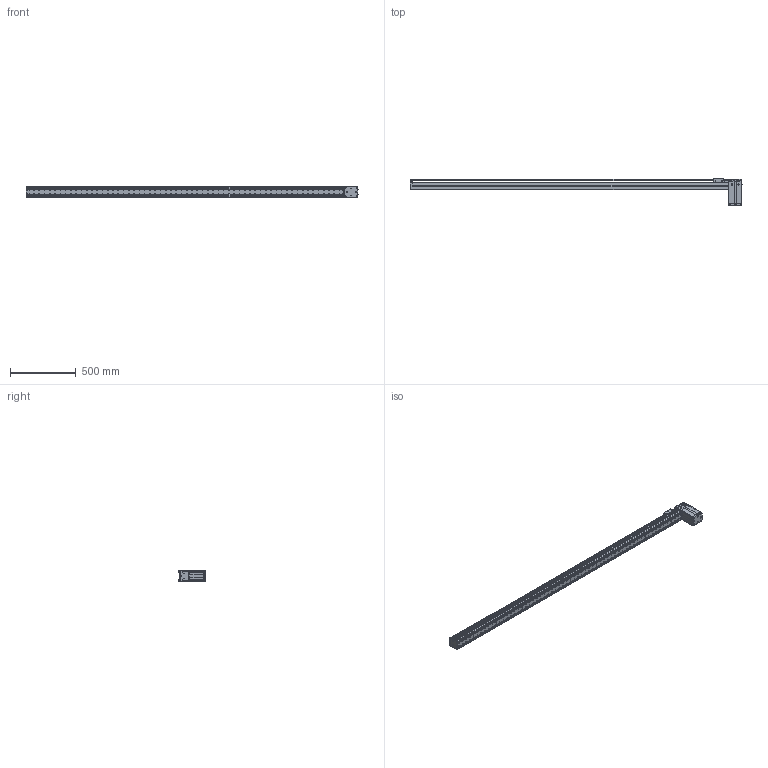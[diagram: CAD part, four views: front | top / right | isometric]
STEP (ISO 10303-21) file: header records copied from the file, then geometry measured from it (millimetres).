
FILE_DESCRIPTION((''),'2;1');
FILE_NAME('BE10_-BU-S_N-N5_IGS_PRT','2017-06-18T',(' '),(''),'PRO/ENGINEER BY PARAMETRIC TECHNOLOGY CORPORATION, 2015030','PRO/ENGINEER BY PARAMETRIC TECHNOLOGY CORPORATION, 2015030','');
FILE_SCHEMA(('CONFIG_CONTROL_DESIGN'));
Products named in the file (1): BE10_-BU-S_N-N5_IGS_PRT
Bounding box: 2520.8 x 202.72 x 78 mm (x, y, z)
Volume: 3187932.9 mm3; surface area: 2257349 mm2
Topology: 5 solids, 199 shells, 2403 faces, 6611 edges, 4416 vertices
Faces by surface type: cylinder 1167, plane 1077, cone 103, sphere 28, torus 25, bspline 3
Entity records: 79010 total; most frequent: CARTESIAN_POINT 16183, DIRECTION 13408, ORIENTED_EDGE 12374, EDGE_CURVE 6557, AXIS2_PLACEMENT_3D 4945, VERTEX_POINT 4416, VECTOR 3518, LINE 3518
